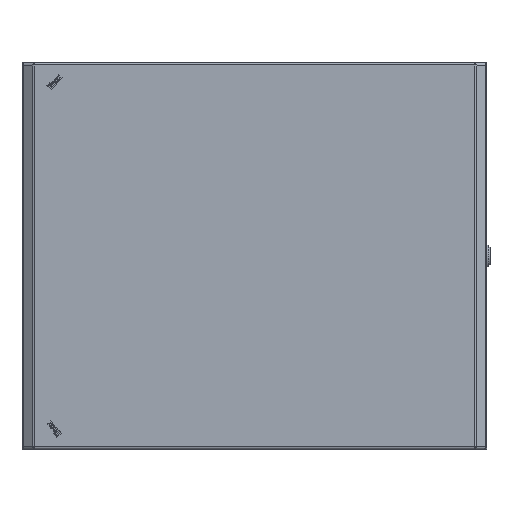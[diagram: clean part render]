
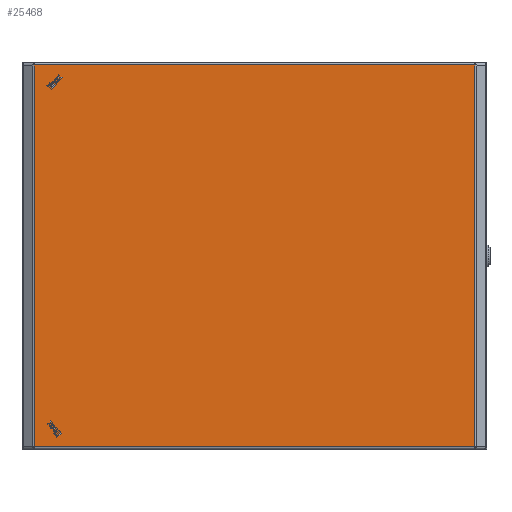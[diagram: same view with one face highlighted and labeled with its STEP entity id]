
A CAD part, top view. The second image highlights one B-rep face of the part: STEP entity #25468.
In plain terms, the highlighted planar face has unit normal (0, 0, 1).
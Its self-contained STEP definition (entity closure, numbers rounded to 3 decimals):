
#3104 = ORIENTED_EDGE ( 'NONE', *, *, #28293, .T. ) ;
#4910 = LINE ( 'NONE', #7321, #16726 ) ;
#5514 = DIRECTION ( 'NONE',  ( -1., 0., 0. ) ) ;
#5784 = EDGE_CURVE ( 'NONE', #15781, #14958, #4910, .T. ) ;
#6798 = CARTESIAN_POINT ( 'NONE',  ( -284.294, 246.35, 26.5 ) ) ;
#7321 = CARTESIAN_POINT ( 'NONE',  ( 284.294, -249.35, 26.5 ) ) ;
#8278 = DIRECTION ( 'NONE',  ( 1., 0., 0. ) ) ;
#8438 = PLANE ( 'NONE',  #30829 ) ;
#9320 = DIRECTION ( 'NONE',  ( 1., 0., 0. ) ) ;
#9364 = VECTOR ( 'NONE', #9320, 1000. ) ;
#9971 = CARTESIAN_POINT ( 'NONE',  ( -284.294, -246.35, 26.5 ) ) ;
#10466 = EDGE_CURVE ( 'NONE', #10825, #11708, #15600, .T. ) ;
#10519 = CARTESIAN_POINT ( 'NONE',  ( -285.25, 246.35, 26.5 ) ) ;
#10825 = VERTEX_POINT ( 'NONE', #6798 ) ;
#11121 = CARTESIAN_POINT ( 'NONE',  ( 284.294, -246.35, 26.5 ) ) ;
#11708 = VERTEX_POINT ( 'NONE', #9971 ) ;
#12958 = LINE ( 'NONE', #10519, #31599 ) ;
#13307 = CARTESIAN_POINT ( 'NONE',  ( 299.35, -249.35, 26.5 ) ) ;
#14458 = CARTESIAN_POINT ( 'NONE',  ( -284.294, -249.35, 26.5 ) ) ;
#14958 = VERTEX_POINT ( 'NONE', #28222 ) ;
#15600 = LINE ( 'NONE', #14458, #30852 ) ;
#15704 = EDGE_LOOP ( 'NONE', ( #23681, #3104, #17260, #28465 ) ) ;
#15781 = VERTEX_POINT ( 'NONE', #11121 ) ;
#16726 = VECTOR ( 'NONE', #17837, 1000. ) ;
#17260 = ORIENTED_EDGE ( 'NONE', *, *, #5784, .T. ) ;
#17837 = DIRECTION ( 'NONE',  ( 0., 1., 0. ) ) ;
#18773 = EDGE_CURVE ( 'NONE', #14958, #10825, #12958, .T. ) ;
#21881 = DIRECTION ( 'NONE',  ( 0., -1., 0. ) ) ;
#22692 = FACE_OUTER_BOUND ( 'NONE', #15704, .T. ) ;
#23681 = ORIENTED_EDGE ( 'NONE', *, *, #10466, .T. ) ;
#24030 = LINE ( 'NONE', #31503, #9364 ) ;
#25468 = ADVANCED_FACE ( 'NONE', ( #22692 ), #8438, .T. ) ;
#28170 = DIRECTION ( 'NONE',  ( 0., 0., 1. ) ) ;
#28222 = CARTESIAN_POINT ( 'NONE',  ( 284.294, 246.35, 26.5 ) ) ;
#28293 = EDGE_CURVE ( 'NONE', #11708, #15781, #24030, .T. ) ;
#28465 = ORIENTED_EDGE ( 'NONE', *, *, #18773, .T. ) ;
#30829 = AXIS2_PLACEMENT_3D ( 'NONE', #13307, #28170, #8278 ) ;
#30852 = VECTOR ( 'NONE', #21881, 1000. ) ;
#31503 = CARTESIAN_POINT ( 'NONE',  ( 285.25, -246.35, 26.5 ) ) ;
#31599 = VECTOR ( 'NONE', #5514, 1000. ) ;
